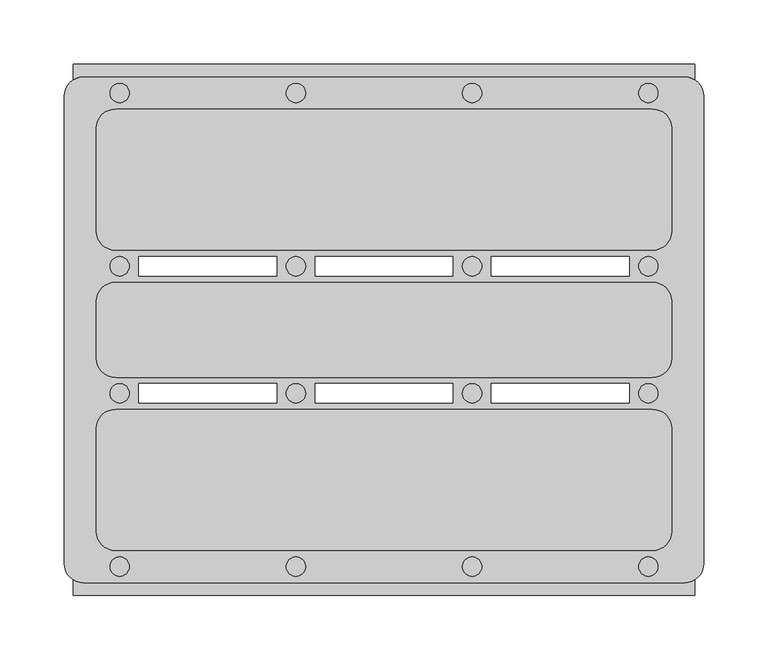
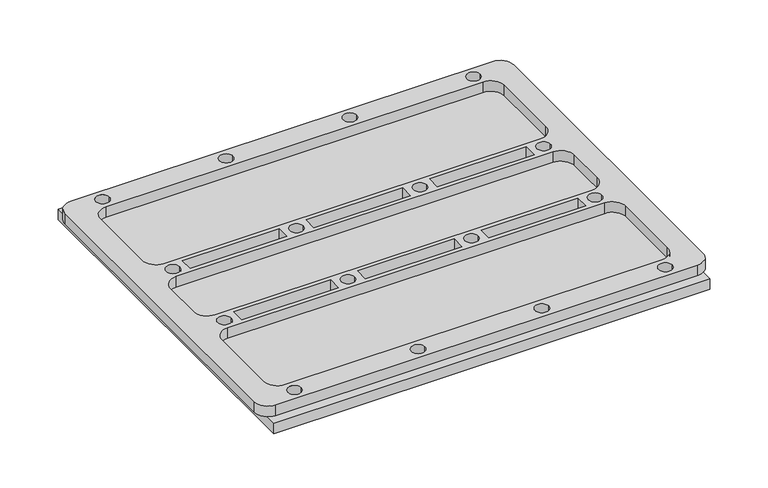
"""IFC4 building model written with IfcOpenShell, lengths in millimetres: light fixture geometry, Zumtobel CRAFT II Performance : CR2 M13k-840 PM WB LDO WH."""

from ifc_helpers import new_model, si_unit, frame, origin, place, context, project, spatial, polyline, circle_curve, source, transform, mapped, element, save
from ifc_brep_helpers import plane_surface, cylinder_surface, revolved_surface, advanced_brep


def light_fixture_4bba55b8(model_context):
    return source(origin(), model_context, "Body", "AdvancedBrep", [
        advanced_brep(
        [(641.5000048, -207.0, 209.0), (157.5000048, -207.0, 209.0), (157.5000048, 207.0, 209.0), (641.5000048, 207.0, 209.0), (208.6450279, -42.0, 209.0), (208.6450279, -57.0, 209.0), (315.9273051, -57.0, 209.0), (315.9273051, -42.0, 209.0), (453.1411434, -42.0, 209.0), (345.8588662, -42.0, 209.0), (345.8588662, -57.0, 209.0), (453.1411434, -57.0, 209.0), (590.3549818, -42.0, 209.0), (483.0727046, -42.0, 209.0), (483.0727046, -57.0, 209.0), (590.3549818, -57.0, 209.0), (208.6450279, 42.0, 209.0), (315.9273051, 42.0, 209.0), (315.9273051, 57.0, 209.0), (208.6450279, 57.0, 209.0), (453.1411434, 42.0, 209.0), (453.1411434, 57.0, 209.0), (345.8588662, 57.0, 209.0), (345.8588662, 42.0, 209.0), (590.3549818, 42.0, 209.0), (590.3549818, 57.0, 209.0), (483.0727046, 57.0, 209.0), (483.0727046, 42.0, 209.0), (608.5000048, -172.0, 221.5), (623.5000048, -157.0, 221.5), (623.5000048, -77.0, 221.5), (608.5000048, -62.0, 221.5), (190.5000048, -62.0, 221.5), (175.5000048, -77.0, 221.5), (175.5000048, -157.0, 221.5), (190.5000048, -172.0, 221.5), (186.1792473, -184.5, 221.5), (201.1792473, -184.5, 221.5), (323.3930856, -184.5, 221.5), (338.3930856, -184.5, 221.5), (460.606924, -184.5, 221.5), (475.606924, -184.5, 221.5), (597.8207623, -184.5, 221.5), (612.8207623, -184.5, 221.5), (186.1792473, -49.5, 221.5), (201.1792473, -49.5, 221.5), (323.3930856, -49.5, 221.5), (338.3930856, -49.5, 221.5), (460.606924, -49.5, 221.5), (475.606924, -49.5, 221.5), (597.8207623, -49.5, 221.5), (612.8207623, -49.5, 221.5), (175.5000048, 22.0, 221.5), (175.5000048, -22.0, 221.5), (190.5000048, -37.0, 221.5), (608.5000048, -37.0, 221.5), (623.5000048, -22.0, 221.5), (623.5000048, 22.0, 221.5), (608.5000048, 37.0, 221.5), (190.5000048, 37.0, 221.5), (608.5000048, 172.0, 221.5), (190.5000048, 172.0, 221.5), (175.5000048, 157.0, 221.5), (175.5000048, 77.0, 221.5), (190.5000048, 62.0, 221.5), (608.5000048, 62.0, 221.5), (623.5000048, 77.0, 221.5), (623.5000048, 157.0, 221.5), (186.1792473, 184.5, 221.5), (201.1792473, 184.5, 221.5), (323.3930856, 184.5, 221.5), (338.3930856, 184.5, 221.5), (460.606924, 184.5, 221.5), (475.606924, 184.5, 221.5), (597.8207623, 184.5, 221.5), (612.8207623, 184.5, 221.5), (186.1792473, 49.5, 221.5), (201.1792473, 49.5, 221.5), (323.3930856, 49.5, 221.5), (338.3930856, 49.5, 221.5), (460.606924, 49.5, 221.5), (475.606924, 49.5, 221.5), (597.8207623, 49.5, 221.5), (612.8207623, 49.5, 221.5), (641.5000048, 207.0, 221.5), (157.5000048, 207.0, 221.5), (157.5000048, 194.6885775, 221.5), (165.5000048, 197.0, 221.5), (633.5000048, 197.0, 221.5), (641.5000048, 194.6885775, 221.5), (157.5000048, -207.0, 221.5), (641.5000048, -207.0, 221.5), (641.5000048, -194.6885775, 221.5), (633.5000048, -197.0, 221.5), (165.5000048, -197.0, 221.5), (157.5000048, -194.6885775, 221.5), (150.5000048, -182.0, 221.5), (150.5000048, 182.0, 221.5), (648.5000048, 182.0, 221.5), (648.5000048, -182.0, 221.5), (633.5000048, -197.0, 234.0), (648.5000048, -182.0, 234.0), (648.5000048, 182.0, 234.0), (633.5000048, 197.0, 234.0), (165.5000048, 197.0, 234.0), (150.5000048, 182.0, 234.0), (150.5000048, -182.0, 234.0), (165.5000048, -197.0, 234.0), (608.5000048, -172.0, 234.0), (190.5000048, -172.0, 234.0), (175.5000048, -157.0, 234.0), (175.5000048, -77.0, 234.0), (190.5000048, -62.0, 234.0), (608.5000048, -62.0, 234.0), (623.5000048, -77.0, 234.0), (623.5000048, -157.0, 234.0), (186.1792473, -184.5, 234.0), (201.1792473, -184.5, 234.0), (323.3930856, -184.5, 234.0), (338.3930856, -184.5, 234.0), (460.606924, -184.5, 234.0), (475.606924, -184.5, 234.0), (597.8207623, -184.5, 234.0), (612.8207623, -184.5, 234.0), (186.1792473, -49.5, 234.0), (201.1792473, -49.5, 234.0), (323.3930856, -49.5, 234.0), (338.3930856, -49.5, 234.0), (460.606924, -49.5, 234.0), (475.606924, -49.5, 234.0), (597.8207623, -49.5, 234.0), (612.8207623, -49.5, 234.0), (208.6450279, -42.0, 234.0), (315.9273051, -42.0, 234.0), (315.9273051, -57.0, 234.0), (208.6450279, -57.0, 234.0), (453.1411434, -42.0, 234.0), (453.1411434, -57.0, 234.0), (345.8588662, -57.0, 234.0), (345.8588662, -42.0, 234.0), (590.3549818, -42.0, 234.0), (590.3549818, -57.0, 234.0), (483.0727046, -57.0, 234.0), (483.0727046, -42.0, 234.0), (175.5000048, 22.0, 234.0), (190.5000048, 37.0, 234.0), (608.5000048, 37.0, 234.0), (623.5000048, 22.0, 234.0), (623.5000048, -22.0, 234.0), (608.5000048, -37.0, 234.0), (190.5000048, -37.0, 234.0), (175.5000048, -22.0, 234.0), (608.5000048, 172.0, 234.0), (623.5000048, 157.0, 234.0), (623.5000048, 77.0, 234.0), (608.5000048, 62.0, 234.0), (190.5000048, 62.0, 234.0), (175.5000048, 77.0, 234.0), (175.5000048, 157.0, 234.0), (190.5000048, 172.0, 234.0), (186.1792473, 184.5, 234.0), (201.1792473, 184.5, 234.0), (323.3930856, 184.5, 234.0), (338.3930856, 184.5, 234.0), (460.606924, 184.5, 234.0), (475.606924, 184.5, 234.0), (597.8207623, 184.5, 234.0), (612.8207623, 184.5, 234.0), (186.1792473, 49.5, 234.0), (201.1792473, 49.5, 234.0), (323.3930856, 49.5, 234.0), (338.3930856, 49.5, 234.0), (460.606924, 49.5, 234.0), (475.606924, 49.5, 234.0), (597.8207623, 49.5, 234.0), (612.8207623, 49.5, 234.0), (208.6450279, 42.0, 234.0), (208.6450279, 57.0, 234.0), (315.9273051, 57.0, 234.0), (315.9273051, 42.0, 234.0), (453.1411434, 42.0, 234.0), (345.8588662, 42.0, 234.0), (345.8588662, 57.0, 234.0), (453.1411434, 57.0, 234.0), (590.3549818, 42.0, 234.0), (483.0727046, 42.0, 234.0), (483.0727046, 57.0, 234.0), (590.3549818, 57.0, 234.0)],
        [
            (0, 1),
            (1, 2),
            (2, 3),
            (3, 0),
            (4, 5),
            (5, 6),
            (6, 7),
            (7, 4),
            (8, 9),
            (9, 10),
            (10, 11),
            (11, 8),
            (12, 13),
            (13, 14),
            (14, 15),
            (15, 12),
            (16, 17),
            (17, 18),
            (18, 19),
            (19, 16),
            (20, 21),
            (21, 22),
            (22, 23),
            (23, 20),
            (24, 25),
            (25, 26),
            (26, 27),
            (27, 24),
            (28, 29, circle_curve(frame((608.5000048, -157.0, 221.5), z_axis=(0.0, 0.0, 1.0), x_axis=(1.0, 0.0, 0.0)), 15.0)),
            (29, 30),
            (30, 31, circle_curve(frame((608.5000048, -77.0, 221.5), z_axis=(0.0, 0.0, 1.0), x_axis=(1.0, 0.0, 0.0)), 15.0)),
            (31, 32),
            (32, 33, circle_curve(frame((190.5000048, -77.0, 221.5), z_axis=(0.0, 0.0, 1.0), x_axis=(1.0, 0.0, 0.0)), 15.0)),
            (33, 34),
            (34, 35, circle_curve(frame((190.5000048, -157.0, 221.5), z_axis=(0.0, 0.0, 1.0), x_axis=(1.0, 0.0, 0.0)), 15.0)),
            (35, 28),
            (36, 37, circle_curve(frame((193.6792473, -184.5, 221.5), z_axis=(0.0, 0.0, 1.0), x_axis=(1.0, 0.0, 0.0)), 7.5)),
            (37, 36, circle_curve(frame((193.6792473, -184.5, 221.5), z_axis=(0.0, 0.0, 1.0), x_axis=(1.0, 0.0, 0.0)), 7.5)),
            (38, 39, circle_curve(frame((330.8930856, -184.5, 221.5), z_axis=(0.0, 0.0, 1.0), x_axis=(1.0, 0.0, 0.0)), 7.5)),
            (39, 38, circle_curve(frame((330.8930856, -184.5, 221.5), z_axis=(0.0, 0.0, 1.0), x_axis=(1.0, 0.0, 0.0)), 7.5)),
            (40, 41, circle_curve(frame((468.106924, -184.5, 221.5), z_axis=(0.0, 0.0, 1.0), x_axis=(1.0, 0.0, 0.0)), 7.5)),
            (41, 40, circle_curve(frame((468.106924, -184.5, 221.5), z_axis=(0.0, 0.0, 1.0), x_axis=(1.0, 0.0, 0.0)), 7.5)),
            (42, 43, circle_curve(frame((605.3207623, -184.5, 221.5), z_axis=(0.0, 0.0, 1.0), x_axis=(1.0, 0.0, 0.0)), 7.5)),
            (43, 42, circle_curve(frame((605.3207623, -184.5, 221.5), z_axis=(0.0, 0.0, 1.0), x_axis=(1.0, 0.0, 0.0)), 7.5)),
            (44, 45, circle_curve(frame((193.6792473, -49.5, 221.5), z_axis=(0.0, 0.0, 1.0), x_axis=(1.0, 0.0, 0.0)), 7.5)),
            (45, 44, circle_curve(frame((193.6792473, -49.5, 221.5), z_axis=(0.0, 0.0, 1.0), x_axis=(1.0, 0.0, 0.0)), 7.5)),
            (46, 47, circle_curve(frame((330.8930856, -49.5, 221.5), z_axis=(0.0, 0.0, 1.0), x_axis=(1.0, 0.0, 0.0)), 7.5)),
            (47, 46, circle_curve(frame((330.8930856, -49.5, 221.5), z_axis=(0.0, 0.0, 1.0), x_axis=(1.0, 0.0, 0.0)), 7.5)),
            (48, 49, circle_curve(frame((468.106924, -49.5, 221.5), z_axis=(0.0, 0.0, 1.0), x_axis=(1.0, 0.0, 0.0)), 7.5)),
            (49, 48, circle_curve(frame((468.106924, -49.5, 221.5), z_axis=(0.0, 0.0, 1.0), x_axis=(1.0, 0.0, 0.0)), 7.5)),
            (50, 51, circle_curve(frame((605.3207623, -49.5, 221.5), z_axis=(0.0, 0.0, 1.0), x_axis=(1.0, 0.0, 0.0)), 7.5)),
            (51, 50, circle_curve(frame((605.3207623, -49.5, 221.5), z_axis=(0.0, 0.0, 1.0), x_axis=(1.0, 0.0, 0.0)), 7.5)),
            (52, 53),
            (53, 54, circle_curve(frame((190.5000048, -22.0, 221.5), z_axis=(0.0, 0.0, 1.0), x_axis=(1.0, 0.0, 0.0)), 15.0)),
            (54, 55),
            (55, 56, circle_curve(frame((608.5000048, -22.0, 221.5), z_axis=(0.0, 0.0, 1.0), x_axis=(-1.0, 0.0, 0.0)), 15.0)),
            (56, 57),
            (57, 58, circle_curve(frame((608.5000048, 22.0, 221.5), z_axis=(0.0, 0.0, 1.0), x_axis=(-1.0, 0.0, 0.0)), 15.0)),
            (58, 59),
            (59, 52, circle_curve(frame((190.5000048, 22.0, 221.5), z_axis=(0.0, 0.0, 1.0), x_axis=(1.0, 0.0, 0.0)), 15.0)),
            (60, 61),
            (61, 62, circle_curve(frame((190.5000048, 157.0, 221.5), z_axis=(0.0, 0.0, 1.0), x_axis=(1.0, 0.0, 0.0)), 15.0)),
            (62, 63),
            (63, 64, circle_curve(frame((190.5000048, 77.0, 221.5), z_axis=(0.0, 0.0, 1.0), x_axis=(1.0, 0.0, 0.0)), 15.0)),
            (64, 65),
            (65, 66, circle_curve(frame((608.5000048, 77.0, 221.5), z_axis=(0.0, 0.0, 1.0), x_axis=(1.0, 0.0, 0.0)), 15.0)),
            (66, 67),
            (67, 60, circle_curve(frame((608.5000048, 157.0, 221.5), z_axis=(0.0, 0.0, 1.0), x_axis=(1.0, 0.0, 0.0)), 15.0)),
            (68, 69, circle_curve(frame((193.6792473, 184.5, 221.5), z_axis=(0.0, 0.0, 1.0), x_axis=(1.0, 0.0, 0.0)), 7.5)),
            (69, 68, circle_curve(frame((193.6792473, 184.5, 221.5), z_axis=(0.0, 0.0, 1.0), x_axis=(1.0, 0.0, 0.0)), 7.5)),
            (70, 71, circle_curve(frame((330.8930856, 184.5, 221.5), z_axis=(0.0, 0.0, 1.0), x_axis=(1.0, 0.0, 0.0)), 7.5)),
            (71, 70, circle_curve(frame((330.8930856, 184.5, 221.5), z_axis=(0.0, 0.0, 1.0), x_axis=(1.0, 0.0, 0.0)), 7.5)),
            (72, 73, circle_curve(frame((468.106924, 184.5, 221.5), z_axis=(0.0, 0.0, 1.0), x_axis=(1.0, 0.0, 0.0)), 7.5)),
            (73, 72, circle_curve(frame((468.106924, 184.5, 221.5), z_axis=(0.0, 0.0, 1.0), x_axis=(1.0, 0.0, 0.0)), 7.5)),
            (74, 75, circle_curve(frame((605.3207623, 184.5, 221.5), z_axis=(0.0, 0.0, 1.0), x_axis=(1.0, 0.0, 0.0)), 7.5)),
            (75, 74, circle_curve(frame((605.3207623, 184.5, 221.5), z_axis=(0.0, 0.0, 1.0), x_axis=(1.0, 0.0, 0.0)), 7.5)),
            (76, 77, circle_curve(frame((193.6792473, 49.5, 221.5), z_axis=(0.0, 0.0, 1.0), x_axis=(1.0, 0.0, 0.0)), 7.5)),
            (77, 76, circle_curve(frame((193.6792473, 49.5, 221.5), z_axis=(0.0, 0.0, 1.0), x_axis=(1.0, 0.0, 0.0)), 7.5)),
            (78, 79, circle_curve(frame((330.8930856, 49.5, 221.5), z_axis=(0.0, 0.0, 1.0), x_axis=(1.0, 0.0, 0.0)), 7.5)),
            (79, 78, circle_curve(frame((330.8930856, 49.5, 221.5), z_axis=(0.0, 0.0, 1.0), x_axis=(1.0, 0.0, 0.0)), 7.5)),
            (80, 81, circle_curve(frame((468.106924, 49.5, 221.5), z_axis=(0.0, 0.0, 1.0), x_axis=(1.0, 0.0, 0.0)), 7.5)),
            (81, 80, circle_curve(frame((468.106924, 49.5, 221.5), z_axis=(0.0, 0.0, 1.0), x_axis=(1.0, 0.0, 0.0)), 7.5)),
            (82, 83, circle_curve(frame((605.3207623, 49.5, 221.5), z_axis=(0.0, 0.0, 1.0), x_axis=(1.0, 0.0, 0.0)), 7.5)),
            (83, 82, circle_curve(frame((605.3207623, 49.5, 221.5), z_axis=(0.0, 0.0, 1.0), x_axis=(1.0, 0.0, 0.0)), 7.5)),
            (84, 85),
            (85, 86),
            (86, 87, circle_curve(frame((165.5000048, 182.0, 221.5), z_axis=(0.0, 0.0, -1.0), x_axis=(1.0, 0.0, 0.0)), 15.0)),
            (87, 88),
            (88, 89, circle_curve(frame((633.5000048, 182.0, 221.5), z_axis=(0.0, 0.0, -1.0), x_axis=(1.0, 0.0, 0.0)), 15.0)),
            (89, 84),
            (90, 91),
            (91, 92),
            (92, 93, circle_curve(frame((633.5000048, -182.0, 221.5), z_axis=(0.0, 0.0, -1.0), x_axis=(1.0, 0.0, 0.0)), 15.0)),
            (93, 94),
            (94, 95, circle_curve(frame((165.5000048, -182.0, 221.5), z_axis=(0.0, 0.0, -1.0), x_axis=(1.0, 0.0, 0.0)), 15.0)),
            (95, 90),
            (0, 91),
            (90, 1),
            (95, 86),
            (85, 2),
            (84, 3),
            (89, 92),
            (96, 97),
            (97, 86, circle_curve(frame((165.5000048, 182.0, 221.5), z_axis=(0.0, 0.0, -1.0), x_axis=(1.0, 0.0, 0.0)), 15.0)),
            (95, 96, circle_curve(frame((165.5000048, -182.0, 221.5), z_axis=(0.0, 0.0, -1.0), x_axis=(1.0, 0.0, 0.0)), 15.0)),
            (98, 99),
            (99, 92, circle_curve(frame((633.5000048, -182.0, 221.5), z_axis=(0.0, 0.0, -1.0), x_axis=(1.0, 0.0, 0.0)), 15.0)),
            (89, 98, circle_curve(frame((633.5000048, 182.0, 221.5), z_axis=(0.0, 0.0, -1.0), x_axis=(1.0, 0.0, 0.0)), 15.0)),
            (100, 101, circle_curve(frame((633.5000048, -182.0, 234.0), z_axis=(0.0, 0.0, 1.0), x_axis=(1.0, 0.0, 0.0)), 15.0)),
            (101, 102),
            (102, 103, circle_curve(frame((633.5000048, 182.0, 234.0), z_axis=(0.0, 0.0, 1.0), x_axis=(1.0, 0.0, 0.0)), 15.0)),
            (103, 104),
            (104, 105, circle_curve(frame((165.5000048, 182.0, 234.0), z_axis=(0.0, 0.0, 1.0), x_axis=(1.0, 0.0, 0.0)), 15.0)),
            (105, 106),
            (106, 107, circle_curve(frame((165.5000048, -182.0, 234.0), z_axis=(0.0, 0.0, 1.0), x_axis=(1.0, 0.0, 0.0)), 15.0)),
            (107, 100),
            (108, 109),
            (109, 110, circle_curve(frame((190.5000048, -157.0, 234.0), z_axis=(0.0, 0.0, -1.0), x_axis=(1.0, 0.0, 0.0)), 15.0)),
            (110, 111),
            (111, 112, circle_curve(frame((190.5000048, -77.0, 234.0), z_axis=(0.0, 0.0, -1.0), x_axis=(1.0, 0.0, 0.0)), 15.0)),
            (112, 113),
            (113, 114, circle_curve(frame((608.5000048, -77.0, 234.0), z_axis=(0.0, 0.0, -1.0), x_axis=(1.0, 0.0, 0.0)), 15.0)),
            (114, 115),
            (115, 108, circle_curve(frame((608.5000048, -157.0, 234.0), z_axis=(0.0, 0.0, -1.0), x_axis=(1.0, 0.0, 0.0)), 15.0)),
            (116, 117, circle_curve(frame((193.6792473, -184.5, 234.0), z_axis=(0.0, 0.0, -1.0), x_axis=(1.0, 0.0, 0.0)), 7.5)),
            (117, 116, circle_curve(frame((193.6792473, -184.5, 234.0), z_axis=(0.0, 0.0, -1.0), x_axis=(1.0, 0.0, 0.0)), 7.5)),
            (118, 119, circle_curve(frame((330.8930856, -184.5, 234.0), z_axis=(0.0, 0.0, -1.0), x_axis=(1.0, 0.0, 0.0)), 7.5)),
            (119, 118, circle_curve(frame((330.8930856, -184.5, 234.0), z_axis=(0.0, 0.0, -1.0), x_axis=(1.0, 0.0, 0.0)), 7.5)),
            (120, 121, circle_curve(frame((468.106924, -184.5, 234.0), z_axis=(0.0, 0.0, -1.0), x_axis=(1.0, 0.0, 0.0)), 7.5)),
            (121, 120, circle_curve(frame((468.106924, -184.5, 234.0), z_axis=(0.0, 0.0, -1.0), x_axis=(1.0, 0.0, 0.0)), 7.5)),
            (122, 123, circle_curve(frame((605.3207623, -184.5, 234.0), z_axis=(0.0, 0.0, -1.0), x_axis=(1.0, 0.0, 0.0)), 7.5)),
            (123, 122, circle_curve(frame((605.3207623, -184.5, 234.0), z_axis=(0.0, 0.0, -1.0), x_axis=(1.0, 0.0, 0.0)), 7.5)),
            (124, 125, circle_curve(frame((193.6792473, -49.5, 234.0), z_axis=(0.0, 0.0, -1.0), x_axis=(1.0, 0.0, 0.0)), 7.5)),
            (125, 124, circle_curve(frame((193.6792473, -49.5, 234.0), z_axis=(0.0, 0.0, -1.0), x_axis=(1.0, 0.0, 0.0)), 7.5)),
            (126, 127, circle_curve(frame((330.8930856, -49.5, 234.0), z_axis=(0.0, 0.0, -1.0), x_axis=(1.0, 0.0, 0.0)), 7.5)),
            (127, 126, circle_curve(frame((330.8930856, -49.5, 234.0), z_axis=(0.0, 0.0, -1.0), x_axis=(1.0, 0.0, 0.0)), 7.5)),
            (128, 129, circle_curve(frame((468.106924, -49.5, 234.0), z_axis=(0.0, 0.0, -1.0), x_axis=(1.0, 0.0, 0.0)), 7.5)),
            (129, 128, circle_curve(frame((468.106924, -49.5, 234.0), z_axis=(0.0, 0.0, -1.0), x_axis=(1.0, 0.0, 0.0)), 7.5)),
            (130, 131, circle_curve(frame((605.3207623, -49.5, 234.0), z_axis=(0.0, 0.0, -1.0), x_axis=(1.0, 0.0, 0.0)), 7.5)),
            (131, 130, circle_curve(frame((605.3207623, -49.5, 234.0), z_axis=(0.0, 0.0, -1.0), x_axis=(1.0, 0.0, 0.0)), 7.5)),
            (132, 133),
            (133, 134),
            (134, 135),
            (135, 132),
            (136, 137),
            (137, 138),
            (138, 139),
            (139, 136),
            (140, 141),
            (141, 142),
            (142, 143),
            (143, 140),
            (144, 145, circle_curve(frame((190.5000048, 22.0, 234.0), z_axis=(0.0, 0.0, -1.0), x_axis=(1.0, 0.0, 0.0)), 15.0)),
            (145, 146),
            (146, 147, circle_curve(frame((608.5000048, 22.0, 234.0), z_axis=(0.0, 0.0, -1.0), x_axis=(-1.0, 0.0, 0.0)), 15.0)),
            (147, 148),
            (148, 149, circle_curve(frame((608.5000048, -22.0, 234.0), z_axis=(0.0, 0.0, -1.0), x_axis=(-1.0, 0.0, 0.0)), 15.0)),
            (149, 150),
            (150, 151, circle_curve(frame((190.5000048, -22.0, 234.0), z_axis=(0.0, 0.0, -1.0), x_axis=(1.0, 0.0, 0.0)), 15.0)),
            (151, 144),
            (152, 153, circle_curve(frame((608.5000048, 157.0, 234.0), z_axis=(0.0, 0.0, -1.0), x_axis=(1.0, 0.0, 0.0)), 15.0)),
            (153, 154),
            (154, 155, circle_curve(frame((608.5000048, 77.0, 234.0), z_axis=(0.0, 0.0, -1.0), x_axis=(1.0, 0.0, 0.0)), 15.0)),
            (155, 156),
            (156, 157, circle_curve(frame((190.5000048, 77.0, 234.0), z_axis=(0.0, 0.0, -1.0), x_axis=(1.0, 0.0, 0.0)), 15.0)),
            (157, 158),
            (158, 159, circle_curve(frame((190.5000048, 157.0, 234.0), z_axis=(0.0, 0.0, -1.0), x_axis=(1.0, 0.0, 0.0)), 15.0)),
            (159, 152),
            (160, 161, circle_curve(frame((193.6792473, 184.5, 234.0), z_axis=(0.0, 0.0, -1.0), x_axis=(1.0, 0.0, 0.0)), 7.5)),
            (161, 160, circle_curve(frame((193.6792473, 184.5, 234.0), z_axis=(0.0, 0.0, -1.0), x_axis=(1.0, 0.0, 0.0)), 7.5)),
            (162, 163, circle_curve(frame((330.8930856, 184.5, 234.0), z_axis=(0.0, 0.0, -1.0), x_axis=(1.0, 0.0, 0.0)), 7.5)),
            (163, 162, circle_curve(frame((330.8930856, 184.5, 234.0), z_axis=(0.0, 0.0, -1.0), x_axis=(1.0, 0.0, 0.0)), 7.5)),
            (164, 165, circle_curve(frame((468.106924, 184.5, 234.0), z_axis=(0.0, 0.0, -1.0), x_axis=(1.0, 0.0, 0.0)), 7.5)),
            (165, 164, circle_curve(frame((468.106924, 184.5, 234.0), z_axis=(0.0, 0.0, -1.0), x_axis=(1.0, 0.0, 0.0)), 7.5)),
            (166, 167, circle_curve(frame((605.3207623, 184.5, 234.0), z_axis=(0.0, 0.0, -1.0), x_axis=(1.0, 0.0, 0.0)), 7.5)),
            (167, 166, circle_curve(frame((605.3207623, 184.5, 234.0), z_axis=(0.0, 0.0, -1.0), x_axis=(1.0, 0.0, 0.0)), 7.5)),
            (168, 169, circle_curve(frame((193.6792473, 49.5, 234.0), z_axis=(0.0, 0.0, -1.0), x_axis=(1.0, 0.0, 0.0)), 7.5)),
            (169, 168, circle_curve(frame((193.6792473, 49.5, 234.0), z_axis=(0.0, 0.0, -1.0), x_axis=(1.0, 0.0, 0.0)), 7.5)),
            (170, 171, circle_curve(frame((330.8930856, 49.5, 234.0), z_axis=(0.0, 0.0, -1.0), x_axis=(1.0, 0.0, 0.0)), 7.5)),
            (171, 170, circle_curve(frame((330.8930856, 49.5, 234.0), z_axis=(0.0, 0.0, -1.0), x_axis=(1.0, 0.0, 0.0)), 7.5)),
            (172, 173, circle_curve(frame((468.106924, 49.5, 234.0), z_axis=(0.0, 0.0, -1.0), x_axis=(1.0, 0.0, 0.0)), 7.5)),
            (173, 172, circle_curve(frame((468.106924, 49.5, 234.0), z_axis=(0.0, 0.0, -1.0), x_axis=(1.0, 0.0, 0.0)), 7.5)),
            (174, 175, circle_curve(frame((605.3207623, 49.5, 234.0), z_axis=(0.0, 0.0, -1.0), x_axis=(1.0, 0.0, 0.0)), 7.5)),
            (175, 174, circle_curve(frame((605.3207623, 49.5, 234.0), z_axis=(0.0, 0.0, -1.0), x_axis=(1.0, 0.0, 0.0)), 7.5)),
            (176, 177),
            (177, 178),
            (178, 179),
            (179, 176),
            (180, 181),
            (181, 182),
            (182, 183),
            (183, 180),
            (184, 185),
            (185, 186),
            (186, 187),
            (187, 184),
            (107, 94),
            (93, 100),
            (106, 96),
            (105, 97),
            (104, 87),
            (103, 88),
            (102, 98),
            (101, 99),
            (115, 29),
            (28, 108),
            (114, 30),
            (113, 31),
            (112, 32),
            (111, 33),
            (110, 34),
            (109, 35),
            (117, 37),
            (36, 116),
            (119, 39),
            (38, 118),
            (121, 41),
            (40, 120),
            (123, 43),
            (42, 122),
            (125, 45),
            (44, 124),
            (127, 47),
            (46, 126),
            (129, 49),
            (48, 128),
            (131, 51),
            (50, 130),
            (151, 53),
            (52, 144),
            (150, 54),
            (149, 55),
            (148, 56),
            (147, 57),
            (146, 58),
            (145, 59),
            (159, 61),
            (60, 152),
            (158, 62),
            (157, 63),
            (156, 64),
            (155, 65),
            (154, 66),
            (153, 67),
            (161, 69),
            (68, 160),
            (163, 71),
            (70, 162),
            (165, 73),
            (72, 164),
            (167, 75),
            (74, 166),
            (169, 77),
            (76, 168),
            (171, 79),
            (78, 170),
            (173, 81),
            (80, 172),
            (175, 83),
            (82, 174),
            (4, 132),
            (135, 5),
            (134, 6),
            (133, 7),
            (8, 136),
            (139, 9),
            (138, 10),
            (137, 11),
            (12, 140),
            (143, 13),
            (142, 14),
            (141, 15),
            (16, 176),
            (179, 17),
            (178, 18),
            (177, 19),
            (20, 180),
            (183, 21),
            (182, 22),
            (181, 23),
            (24, 184),
            (187, 25),
            (186, 26),
            (185, 27),
        ],
        [
            plane_surface(frame((140.5000048, -207.0, 209.0), z_axis=(0.0, 0.0, -1.0), x_axis=(-1.0, 0.0, 0.0))),
            plane_surface(frame((140.5000048, -207.0, 221.5), z_axis=(0.0, 0.0, 1.0), x_axis=(1.0, 0.0, 0.0))),
            plane_surface(frame((641.5000048, -207.0, 209.0), z_axis=(0.0, -1.0, 0.0), x_axis=(0.0, 0.0, 1.0))),
            plane_surface(frame((157.5000048, -207.0, 209.0), z_axis=(-1.0, 0.0, 0.0), x_axis=(0.0, 0.0, 1.0))),
            plane_surface(frame((157.5000048, 207.0, 209.0), z_axis=(0.0, 1.0, 0.0), x_axis=(0.0, 0.0, 1.0))),
            plane_surface(frame((641.5000048, 207.0, 209.0), z_axis=(1.0, 0.0, 0.0), x_axis=(0.0, 0.0, 1.0))),
            plane_surface(frame((140.5000048, -197.0, 221.5), z_axis=(0.0, 0.0, -1.0), x_axis=(-1.0, 0.0, 0.0))),
            plane_surface(frame((140.5000048, -197.0, 234.0), z_axis=(0.0, 0.0, 1.0), x_axis=(1.0, 0.0, 0.0))),
            plane_surface(frame((633.5000048, -197.0, 221.5), z_axis=(0.0, -1.0, 0.0), x_axis=(0.0, 0.0, 1.0))),
            cylinder_surface(frame((165.5000048, -182.0, 234.0), z_axis=(0.0, 0.0, -1.0), x_axis=(1.0, 0.0, 0.0)), 15.0),
            plane_surface(frame((150.5000048, -182.0, 221.5), z_axis=(-1.0, 0.0, 0.0), x_axis=(0.0, 0.0, 1.0))),
            cylinder_surface(frame((165.5000048, 182.0, 234.0), z_axis=(0.0, 0.0, -1.0), x_axis=(1.0, 0.0, 0.0)), 15.0),
            plane_surface(frame((165.5000048, 197.0, 221.5), z_axis=(0.0, 1.0, 0.0), x_axis=(0.0, 0.0, 1.0))),
            cylinder_surface(frame((633.5000048, 182.0, 234.0), z_axis=(0.0, 0.0, -1.0), x_axis=(1.0, 0.0, 0.0)), 15.0),
            plane_surface(frame((648.5000048, 182.0, 221.5), z_axis=(1.0, 0.0, 0.0), x_axis=(0.0, 0.0, 1.0))),
            cylinder_surface(frame((633.5000048, -182.0, 234.0), z_axis=(0.0, 0.0, -1.0), x_axis=(1.0, 0.0, 0.0)), 15.0),
            revolved_surface(polyline([(623.5000048, -157.0, 234.0), (623.5000048, -157.0, 221.5)]), (608.5000048, -157.0, 234.0), (0.0, 0.0, 1.0)),
            plane_surface(frame((623.5000048, -157.0, 221.5), z_axis=(-1.0, 0.0, 0.0), x_axis=(0.0, 0.0, 1.0))),
            revolved_surface(polyline([(623.5000048, -77.0, 234.0), (623.5000048, -77.0, 221.5)]), (608.5000048, -77.0, 234.0), (0.0, 0.0, 1.0)),
            plane_surface(frame((608.5000048, -62.0, 221.5), z_axis=(0.0, -1.0, 0.0), x_axis=(0.0, 0.0, 1.0))),
            revolved_surface(polyline([(205.5000048, -77.0, 234.0), (205.5000048, -77.0, 221.5)]), (190.5000048, -77.0, 234.0), (0.0, 0.0, 1.0)),
            plane_surface(frame((175.5000048, -77.0, 221.5), z_axis=(1.0, 0.0, 0.0), x_axis=(0.0, 0.0, 1.0))),
            revolved_surface(polyline([(205.5000048, -157.0, 234.0), (205.5000048, -157.0, 221.5)]), (190.5000048, -157.0, 234.0), (0.0, 0.0, 1.0)),
            plane_surface(frame((190.5000048, -172.0, 221.5), z_axis=(0.0, 1.0, 0.0), x_axis=(0.0, 0.0, 1.0))),
            revolved_surface(polyline([(201.1792473, -184.5, 234.0), (201.1792473, -184.5, 221.5)]), (193.6792473, -184.5, 234.0), (0.0, 0.0, 1.0)),
            revolved_surface(polyline([(338.3930856, -184.5, 234.0), (338.3930856, -184.5, 221.5)]), (330.8930856, -184.5, 234.0), (0.0, 0.0, 1.0)),
            revolved_surface(polyline([(475.606924, -184.5, 234.0), (475.606924, -184.5, 221.5)]), (468.106924, -184.5, 234.0), (0.0, 0.0, 1.0)),
            revolved_surface(polyline([(612.8207623, -184.5, 234.0), (612.8207623, -184.5, 221.5)]), (605.3207623, -184.5, 234.0), (0.0, 0.0, 1.0)),
            revolved_surface(polyline([(201.1792473, -49.5, 234.0), (201.1792473, -49.5, 221.5)]), (193.6792473, -49.5, 234.0), (0.0, 0.0, 1.0)),
            revolved_surface(polyline([(338.3930856, -49.5, 234.0), (338.3930856, -49.5, 221.5)]), (330.8930856, -49.5, 234.0), (0.0, 0.0, 1.0)),
            revolved_surface(polyline([(475.606924, -49.5, 234.0), (475.606924, -49.5, 221.5)]), (468.106924, -49.5, 234.0), (0.0, 0.0, 1.0)),
            revolved_surface(polyline([(612.8207623, -49.5, 234.0), (612.8207623, -49.5, 221.5)]), (605.3207623, -49.5, 234.0), (0.0, 0.0, 1.0)),
            plane_surface(frame((175.5000048, 22.0, 221.5), z_axis=(1.0, 0.0, 0.0), x_axis=(0.0, 0.0, 1.0))),
            revolved_surface(polyline([(205.5000048, -22.0, 234.0), (205.5000048, -22.0, 221.5)]), (190.5000048, -22.0, 234.0), (0.0, 0.0, 1.0)),
            plane_surface(frame((190.5000048, -37.0, 221.5), z_axis=(0.0, 1.0, 0.0), x_axis=(0.0, 0.0, 1.0))),
            revolved_surface(polyline([(593.5000048, -22.0, 234.0), (593.5000048, -22.0, 221.5)]), (608.5000048, -22.0, 234.0), (0.0, 0.0, 1.0)),
            plane_surface(frame((623.5000048, -22.0, 221.5), z_axis=(-1.0, 0.0, 0.0), x_axis=(0.0, 0.0, 1.0))),
            revolved_surface(polyline([(593.5000048, 22.0, 234.0), (593.5000048, 22.0, 221.5)]), (608.5000048, 22.0, 234.0), (0.0, 0.0, 1.0)),
            plane_surface(frame((608.5000048, 37.0, 221.5), z_axis=(0.0, -1.0, 0.0), x_axis=(0.0, 0.0, 1.0))),
            revolved_surface(polyline([(205.5000048, 22.0, 234.0), (205.5000048, 22.0, 221.5)]), (190.5000048, 22.0, 234.0), (0.0, 0.0, 1.0)),
            plane_surface(frame((608.5000048, 172.0, 221.5), z_axis=(0.0, -1.0, 0.0), x_axis=(0.0, 0.0, 1.0))),
            revolved_surface(polyline([(205.5000048, 157.0, 234.0), (205.5000048, 157.0, 221.5)]), (190.5000048, 157.0, 234.0), (0.0, 0.0, 1.0)),
            plane_surface(frame((175.5000048, 157.0, 221.5), z_axis=(1.0, 0.0, 0.0), x_axis=(0.0, 0.0, 1.0))),
            revolved_surface(polyline([(205.5000048, 77.0, 234.0), (205.5000048, 77.0, 221.5)]), (190.5000048, 77.0, 234.0), (0.0, 0.0, 1.0)),
            plane_surface(frame((190.5000048, 62.0, 221.5), z_axis=(0.0, 1.0, 0.0), x_axis=(0.0, 0.0, 1.0))),
            revolved_surface(polyline([(623.5000048, 77.0, 234.0), (623.5000048, 77.0, 221.5)]), (608.5000048, 77.0, 234.0), (0.0, 0.0, 1.0)),
            plane_surface(frame((623.5000048, 77.0, 221.5), z_axis=(-1.0, 0.0, 0.0), x_axis=(0.0, 0.0, 1.0))),
            revolved_surface(polyline([(623.5000048, 157.0, 234.0), (623.5000048, 157.0, 221.5)]), (608.5000048, 157.0, 234.0), (0.0, 0.0, 1.0)),
            revolved_surface(polyline([(201.1792473, 184.5, 234.0), (201.1792473, 184.5, 221.5)]), (193.6792473, 184.5, 234.0), (0.0, 0.0, 1.0)),
            revolved_surface(polyline([(338.3930856, 184.5, 234.0), (338.3930856, 184.5, 221.5)]), (330.8930856, 184.5, 234.0), (0.0, 0.0, 1.0)),
            revolved_surface(polyline([(475.606924, 184.5, 234.0), (475.606924, 184.5, 221.5)]), (468.106924, 184.5, 234.0), (0.0, 0.0, 1.0)),
            revolved_surface(polyline([(612.8207623, 184.5, 234.0), (612.8207623, 184.5, 221.5)]), (605.3207623, 184.5, 234.0), (0.0, 0.0, 1.0)),
            revolved_surface(polyline([(201.1792473, 49.5, 234.0), (201.1792473, 49.5, 221.5)]), (193.6792473, 49.5, 234.0), (0.0, 0.0, 1.0)),
            revolved_surface(polyline([(338.3930856, 49.5, 234.0), (338.3930856, 49.5, 221.5)]), (330.8930856, 49.5, 234.0), (0.0, 0.0, 1.0)),
            revolved_surface(polyline([(475.606924, 49.5, 234.0), (475.606924, 49.5, 221.5)]), (468.106924, 49.5, 234.0), (0.0, 0.0, 1.0)),
            revolved_surface(polyline([(612.8207623, 49.5, 234.0), (612.8207623, 49.5, 221.5)]), (605.3207623, 49.5, 234.0), (0.0, 0.0, 1.0)),
            plane_surface(frame((208.6450279, -42.0, 209.0), z_axis=(1.0, 0.0, 0.0), x_axis=(0.0, 0.0, 1.0))),
            plane_surface(frame((208.6450279, -57.0, 209.0), z_axis=(0.0, 1.0, 0.0), x_axis=(0.0, 0.0, 1.0))),
            plane_surface(frame((315.9273051, -57.0, 209.0), z_axis=(-1.0, 0.0, 0.0), x_axis=(0.0, 0.0, 1.0))),
            plane_surface(frame((315.9273051, -42.0, 209.0), z_axis=(0.0, -1.0, 0.0), x_axis=(0.0, 0.0, 1.0))),
            plane_surface(frame((453.1411434, -42.0, 209.0), z_axis=(0.0, -1.0, 0.0), x_axis=(0.0, 0.0, 1.0))),
            plane_surface(frame((345.8588662, -42.0, 209.0), z_axis=(1.0, 0.0, 0.0), x_axis=(0.0, 0.0, 1.0))),
            plane_surface(frame((345.8588662, -57.0, 209.0), z_axis=(0.0, 1.0, 0.0), x_axis=(0.0, 0.0, 1.0))),
            plane_surface(frame((453.1411434, -57.0, 209.0), z_axis=(-1.0, 0.0, 0.0), x_axis=(0.0, 0.0, 1.0))),
            plane_surface(frame((590.3549818, -42.0, 209.0), z_axis=(0.0, -1.0, 0.0), x_axis=(0.0, 0.0, 1.0))),
            plane_surface(frame((483.0727046, -42.0, 209.0), z_axis=(1.0, 0.0, 0.0), x_axis=(0.0, 0.0, 1.0))),
            plane_surface(frame((483.0727046, -57.0, 209.0), z_axis=(0.0, 1.0, 0.0), x_axis=(0.0, 0.0, 1.0))),
            plane_surface(frame((590.3549818, -57.0, 209.0), z_axis=(-1.0, 0.0, 0.0), x_axis=(0.0, 0.0, 1.0))),
            plane_surface(frame((208.6450279, 42.0, 209.0), z_axis=(0.0, 1.0, 0.0), x_axis=(0.0, 0.0, 1.0))),
            plane_surface(frame((315.9273051, 42.0, 209.0), z_axis=(-1.0, 0.0, 0.0), x_axis=(0.0, 0.0, 1.0))),
            plane_surface(frame((315.9273051, 57.0, 209.0), z_axis=(0.0, -1.0, 0.0), x_axis=(0.0, 0.0, 1.0))),
            plane_surface(frame((208.6450279, 57.0, 209.0), z_axis=(1.0, 0.0, 0.0), x_axis=(0.0, 0.0, 1.0))),
            plane_surface(frame((453.1411434, 42.0, 209.0), z_axis=(-1.0, 0.0, 0.0), x_axis=(0.0, 0.0, 1.0))),
            plane_surface(frame((453.1411434, 57.0, 209.0), z_axis=(0.0, -1.0, 0.0), x_axis=(0.0, 0.0, 1.0))),
            plane_surface(frame((345.8588662, 57.0, 209.0), z_axis=(1.0, 0.0, 0.0), x_axis=(0.0, 0.0, 1.0))),
            plane_surface(frame((345.8588662, 42.0, 209.0), z_axis=(0.0, 1.0, 0.0), x_axis=(0.0, 0.0, 1.0))),
            plane_surface(frame((590.3549818, 42.0, 209.0), z_axis=(-1.0, 0.0, 0.0), x_axis=(0.0, 0.0, 1.0))),
            plane_surface(frame((590.3549818, 57.0, 209.0), z_axis=(0.0, -1.0, 0.0), x_axis=(0.0, 0.0, 1.0))),
            plane_surface(frame((483.0727046, 57.0, 209.0), z_axis=(1.0, 0.0, 0.0), x_axis=(0.0, 0.0, 1.0))),
            plane_surface(frame((483.0727046, 42.0, 209.0), z_axis=(0.0, 1.0, 0.0), x_axis=(0.0, 0.0, 1.0))),
        ],
        [
            (0, [[1, 2, 3, 4], [5, 6, 7, 8], [9, 10, 11, 12], [13, 14, 15, 16], [17, 18, 19, 20], [21, 22, 23, 24], [25, 26, 27, 28]]),
            (1, [[29, 30, 31, 32, 33, 34, 35, 36]]),
            (1, [[37, 38]]),
            (1, [[39, 40]]),
            (1, [[41, 42]]),
            (1, [[43, 44]]),
            (1, [[45, 46]]),
            (1, [[47, 48]]),
            (1, [[49, 50]]),
            (1, [[51, 52]]),
            (1, [[53, 54, 55, 56, 57, 58, 59, 60]]),
            (1, [[61, 62, 63, 64, 65, 66, 67, 68]]),
            (1, [[69, 70]]),
            (1, [[71, 72]]),
            (1, [[73, 74]]),
            (1, [[75, 76]]),
            (1, [[77, 78]]),
            (1, [[79, 80]]),
            (1, [[81, 82]]),
            (1, [[83, 84]]),
            (1, [[85, 86, 87, 88, 89, 90]]),
            (1, [[91, 92, 93, 94, 95, 96]]),
            (2, [[-1, 97, -91, 98]]),
            (3, [[-2, -98, -96, 99, -86, 100]]),
            (4, [[-3, -100, -85, 101]]),
            (5, [[-4, -101, -90, 102, -92, -97]]),
            (6, [[103, 104, -99, 105]]),
            (6, [[106, 107, -102, 108]]),
            (7, [[109, 110, 111, 112, 113, 114, 115, 116], [117, 118, 119, 120, 121, 122, 123, 124], [125, 126], [127, 128], [129, 130], [131, 132], [133, 134], [135, 136], [137, 138], [139, 140], [141, 142, 143, 144], [145, 146, 147, 148], [149, 150, 151, 152], [153, 154, 155, 156, 157, 158, 159, 160], [161, 162, 163, 164, 165, 166, 167, 168], [169, 170], [171, 172], [173, 174], [175, 176], [177, 178], [179, 180], [181, 182], [183, 184], [185, 186, 187, 188], [189, 190, 191, 192], [193, 194, 195, 196]]),
            (8, [[-116, 197, -94, 198]]),
            (9, [[-115, 199, -105, -95, -197]]),
            (10, [[-103, -199, -114, 200]]),
            (11, [[-113, 201, -87, -104, -200]]),
            (12, [[-112, 202, -88, -201]]),
            (13, [[-111, 203, -108, -89, -202]]),
            (14, [[-106, -203, -110, 204]]),
            (15, [[-109, -198, -93, -107, -204]]),
            (16, [[-124, 205, -29, 206]]),
            (17, [[-123, 207, -30, -205]]),
            (18, [[-122, 208, -31, -207]]),
            (19, [[-121, 209, -32, -208]]),
            (20, [[-120, 210, -33, -209]]),
            (21, [[-119, 211, -34, -210]]),
            (22, [[-118, 212, -35, -211]]),
            (23, [[-117, -206, -36, -212]]),
            (24, [[-126, 213, -37, 214]]),
            (24, [[-125, -214, -38, -213]]),
            (25, [[-128, 215, -39, 216]]),
            (25, [[-127, -216, -40, -215]]),
            (26, [[-130, 217, -41, 218]]),
            (26, [[-129, -218, -42, -217]]),
            (27, [[-132, 219, -43, 220]]),
            (27, [[-131, -220, -44, -219]]),
            (28, [[-134, 221, -45, 222]]),
            (28, [[-133, -222, -46, -221]]),
            (29, [[-136, 223, -47, 224]]),
            (29, [[-135, -224, -48, -223]]),
            (30, [[-138, 225, -49, 226]]),
            (30, [[-137, -226, -50, -225]]),
            (31, [[-140, 227, -51, 228]]),
            (31, [[-139, -228, -52, -227]]),
            (32, [[-160, 229, -53, 230]]),
            (33, [[-159, 231, -54, -229]]),
            (34, [[-158, 232, -55, -231]]),
            (35, [[-157, 233, -56, -232]]),
            (36, [[-156, 234, -57, -233]]),
            (37, [[-155, 235, -58, -234]]),
            (38, [[-154, 236, -59, -235]]),
            (39, [[-153, -230, -60, -236]]),
            (40, [[-168, 237, -61, 238]]),
            (41, [[-167, 239, -62, -237]]),
            (42, [[-166, 240, -63, -239]]),
            (43, [[-165, 241, -64, -240]]),
            (44, [[-164, 242, -65, -241]]),
            (45, [[-163, 243, -66, -242]]),
            (46, [[-162, 244, -67, -243]]),
            (47, [[-161, -238, -68, -244]]),
            (48, [[-170, 245, -69, 246]]),
            (48, [[-169, -246, -70, -245]]),
            (49, [[-172, 247, -71, 248]]),
            (49, [[-171, -248, -72, -247]]),
            (50, [[-174, 249, -73, 250]]),
            (50, [[-173, -250, -74, -249]]),
            (51, [[-176, 251, -75, 252]]),
            (51, [[-175, -252, -76, -251]]),
            (52, [[-178, 253, -77, 254]]),
            (52, [[-177, -254, -78, -253]]),
            (53, [[-180, 255, -79, 256]]),
            (53, [[-179, -256, -80, -255]]),
            (54, [[-182, 257, -81, 258]]),
            (54, [[-181, -258, -82, -257]]),
            (55, [[-184, 259, -83, 260]]),
            (55, [[-183, -260, -84, -259]]),
            (56, [[-5, 261, -144, 262]]),
            (57, [[-6, -262, -143, 263]]),
            (58, [[-7, -263, -142, 264]]),
            (59, [[-261, -8, -264, -141]]),
            (60, [[-9, 265, -148, 266]]),
            (61, [[-10, -266, -147, 267]]),
            (62, [[-11, -267, -146, 268]]),
            (63, [[-265, -12, -268, -145]]),
            (64, [[-13, 269, -152, 270]]),
            (65, [[-14, -270, -151, 271]]),
            (66, [[-15, -271, -150, 272]]),
            (67, [[-269, -16, -272, -149]]),
            (68, [[-17, 273, -188, 274]]),
            (69, [[-18, -274, -187, 275]]),
            (70, [[-19, -275, -186, 276]]),
            (71, [[-273, -20, -276, -185]]),
            (72, [[-21, 277, -192, 278]]),
            (73, [[-22, -278, -191, 279]]),
            (74, [[-23, -279, -190, 280]]),
            (75, [[-277, -24, -280, -189]]),
            (76, [[-25, 281, -196, 282]]),
            (77, [[-26, -282, -195, 283]]),
            (78, [[-27, -283, -194, 284]]),
            (79, [[-281, -28, -284, -193]]),
        ],
    ),
    ])


if __name__ == "__main__":
    model = new_model("IFC4")
    model_context = context("Model", 3, world=origin())
    ifc_project = project(units=[si_unit("LENGTHUNIT", "METRE", prefix="MILLI")], contexts=[model_context])
    site = spatial("IfcSite", under=ifc_project)
    building = spatial("IfcBuilding", under=site)
    placement = place(None, origin())
    light_fixture_shape = light_fixture_4bba55b8(model_context)
    element("IfcLightFixture", 1, ObjectType="Zumtobel CRAFT II Performance : CR2 M13k-840 PM WB LDO WH", at=placement, inside=building, context=model_context, shape_type="MappedRepresentation", body=[
        mapped(light_fixture_shape, transform((0.0, 0.0, 0.0), x_axis=(1.0, 0.0, 0.0), y_axis=(0.0, 1.0, 0.0), z_axis=(0.0, 0.0, 1.0))),
    ])
    save(model, "model.ifc")
